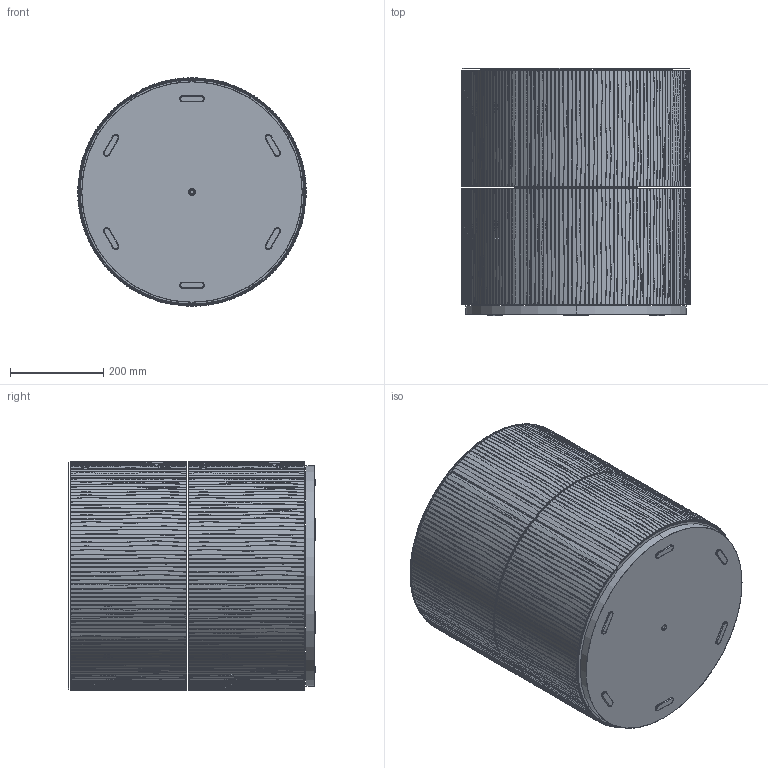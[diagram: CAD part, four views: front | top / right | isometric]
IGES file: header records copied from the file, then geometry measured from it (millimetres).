
Start section: SolidWorks IGES file using analytic representation for surfaces
Global section: file name: \\192.168.0.53\Reserch Development\SITO WEB\2024\FFG26A~6\Prodotti\3D\De Castelli-3D-Pandora Ordita.IGS; native system: SolidWorks 2025; preprocessor: SolidWorks 2025; author: andreaca; date: 260130.150034; units: millimetre
Bounding box: 490.3 x 529.46 x 490.3 mm (x, y, z)
Surface area: 4585702.1 mm2 (no closed solid volume)
Topology: 0 solids, 0 shells, 1406 faces, 18611 edges, 18611 vertices
Faces by surface type: bspline 1352, revolution 54
